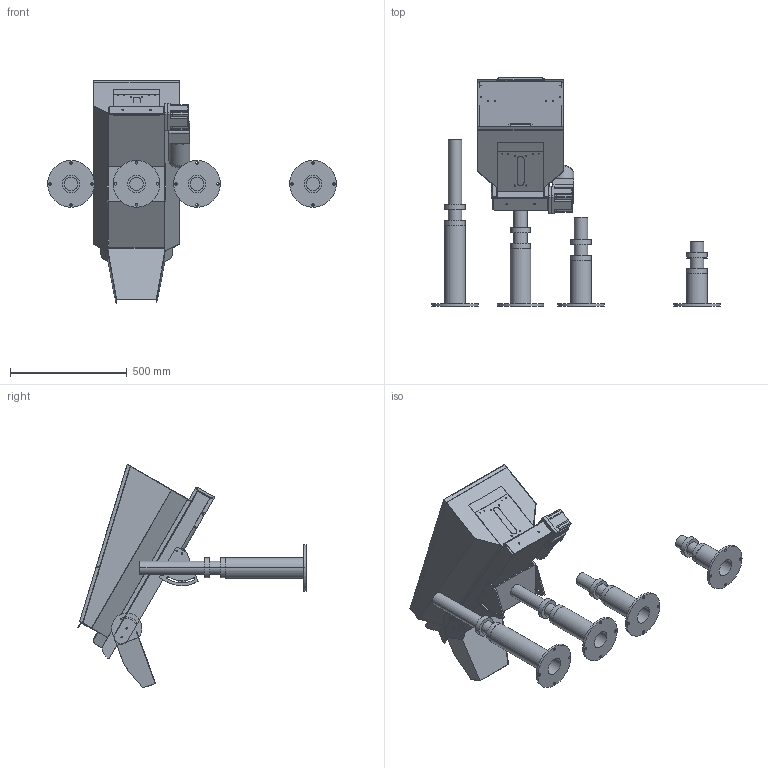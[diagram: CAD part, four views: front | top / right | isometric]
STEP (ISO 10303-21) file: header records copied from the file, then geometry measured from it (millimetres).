
FILE_DESCRIPTION (( 'STEP AP203' ), '1' );
FILE_NAME ('SC20-45怀冞蹋累.STEP', '2025-07-13T03:01:17', ( '' ), ( '' ), 'SwSTEP 2.0', 'SolidWorks 2022', '' );
FILE_SCHEMA (( 'CONFIG_CONTROL_DESIGN' ));
Length unit declared in the file: millimetre
Products named in the file (1): SC20-45怀冞蹋累
Bounding box: 1237.79 x 978.99 x 958.79 mm (x, y, z)
Volume: 22515435.6 mm3; surface area: 3999462.8 mm2
Topology: 35 solids, 35 shells, 653 faces, 1687 edges, 1105 vertices
Faces by surface type: cylinder 373, plane 258, bspline 8, cone 8, torus 6
Entity records: 20909 total; most frequent: CARTESIAN_POINT 3902, DIRECTION 3695, ORIENTED_EDGE 3342, EDGE_CURVE 1671, AXIS2_PLACEMENT_3D 1402, VERTEX_POINT 1105, EDGE_LOOP 896, LINE 891
